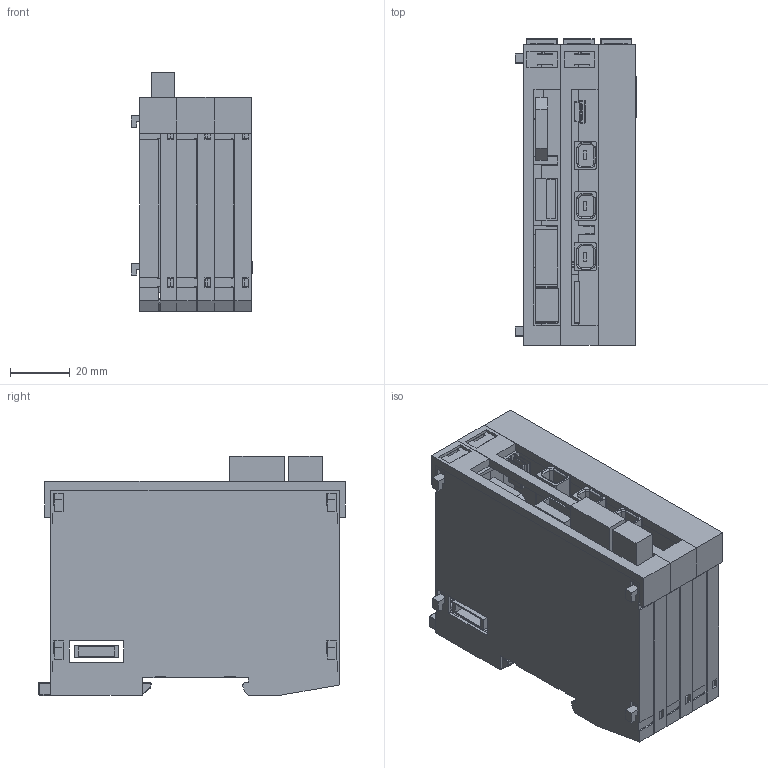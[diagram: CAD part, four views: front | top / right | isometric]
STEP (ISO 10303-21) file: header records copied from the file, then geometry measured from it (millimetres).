
FILE_DESCRIPTION (( 'STEP AP214' ), '1' );
FILE_NAME ('CP313 support.STEP', '2019-12-06T09:48:41', ( 'Windows-Benutzer' ), ( '' ), 'SwSTEP 2.0', 'SolidWorks 2018', '' );
FILE_SCHEMA (( 'AUTOMOTIVE_DESIGN' ));
Length unit declared in the file: millimetre
Products named in the file (19): S-Dias Dreifachmodul Abdeckung Support; Dummy_4080225345 Erni Buchse; Dummy_4110262171 3pol Stecker 1.5-6-st-3.5_1705386; S-Dias Schale rechts_f Suport; S-Dias Zwischenstück Doppelmodul; Dummy_7257771019_Batteriehalter; Dummy_4080225346 Erni Stift; Schieber_f Suport; ZM1505-2730-10 Rasthaken S-Dias; Dummy_4080225147 & 751771034 Micro SD Connector incl. SD-Card; LP_CP212-K; CP313 support; Dummy_4080225240 USB Buchse; Dummy_4080225387 c-1981080-1-g-3d; Dummy_4080225241 MINI USB; Dummy_4110251244 3pol.Mini-Combic.Steckergrundg. RM 3,5 1844223; Dummy____________fmc_1.5 5pol 1952296; Dummy_4110262152 5pol Buchse; S-Dias Schale links_f Suport
Assembly tree (24 placements, depth 3):
  CP313 support
    S-Dias Schale links_f Suport
    S-Dias Schale rechts_f Suport
    Schieber_f Suport  x2
    S-Dias Dreifachmodul Abdeckung Support
    LP_CP212-K
      Dummy_4080225345 Erni Buchse
      Dummy_4110262152 5pol Buchse
      Dummy____________fmc_1.5 5pol 1952296
      Dummy_4110251244 3pol.Mini-Combic.Steckergrundg. RM 3,5 1844223
      Dummy_4110262171 3pol Stecker 1.5-6-st-3.5_1705386
      Dummy_4080225240 USB Buchse
      Dummy_4080225346 Erni Stift
      Dummy_7257771019_Batteriehalter
      Dummy_4080225147 & 751771034 Micro SD Connector incl. SD-Card
      Dummy_4080225241 MINI USB
      Dummy_4080225387 c-1981080-1-g-3d  x3
    S-Dias Zwischenstück Doppelmodul  x2
    ZM1505-2730-10 Rasthaken S-Dias  x3
Bounding box: 40.8 x 102.87 x 80.19 mm (x, y, z)
Volume: 50247.5 mm3; surface area: 76068.1 mm2
Topology: 25 solids, 25 shells, 2166 faces, 6284 edges, 4150 vertices
Faces by surface type: plane 1400, cylinder 426, bspline 216, cone 80, torus 40, sphere 4
Entity records: 44574 total; most frequent: CARTESIAN_POINT 9689, ORIENTED_EDGE 6796, DIRECTION 5645, EDGE_CURVE 3398, VECTOR 2591, LINE 2591, VERTEX_POINT 2239, AXIS2_PLACEMENT_3D 1527
